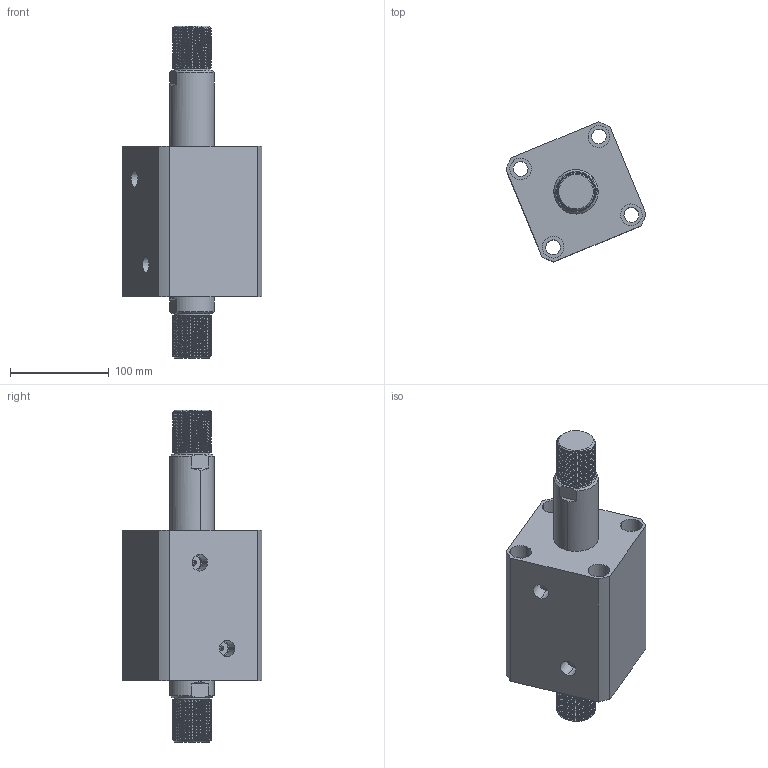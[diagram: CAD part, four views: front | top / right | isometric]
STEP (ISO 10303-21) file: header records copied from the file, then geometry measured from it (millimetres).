
FILE_DESCRIPTION (( 'STEP AP214' ), '1' );
FILE_NAME ('chtb-sw80x60w_asm.STEP', '2018-05-28T01:54:40', ( 'Windows' ), ( 'Microsoft' ), 'SwSTEP 2.0', 'SolidWorks 2015', '' );
FILE_SCHEMA (( 'AUTOMOTIVE_DESIGN' ));
Length unit declared in the file: millimetre
Products named in the file (4): CHTB-SW80X60WHSG; CHTB-SW80X60NBT; CHTB-SD80QG; chtb-sw80x60w_asm
Assembly tree (3 placements, depth 2):
  chtb-sw80x60w_asm
    CHTB-SD80QG
    CHTB-SW80X60NBT
    CHTB-SW80X60WHSG
Bounding box: 142.06 x 142.06 x 337 mm (x, y, z)
Volume: 1854492.9 mm3; surface area: 251477.8 mm2
Topology: 3 solids, 3 shells, 330 faces, 908 edges, 607 vertices
Faces by surface type: cylinder 221, plane 48, cone 25, bspline 18, torus 18
Entity records: 25864 total; most frequent: CARTESIAN_POINT 18238, ORIENTED_EDGE 1808, DIRECTION 1338, EDGE_CURVE 904, VERTEX_POINT 607, AXIS2_PLACEMENT_3D 532, EDGE_LOOP 373, ADVANCED_FACE 330
